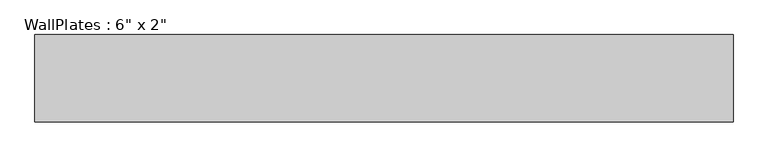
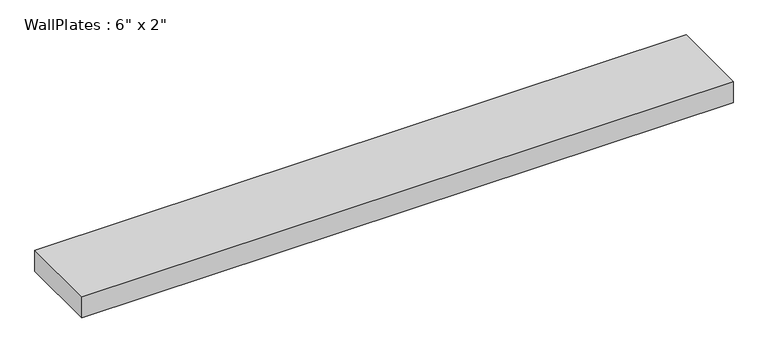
"""IFC4 building model written with IfcOpenShell, lengths in millimetres: beam geometry."""

import ifcopenshell
import ifcopenshell.guid

model = None  # the IFC model being written
_history = None  # IfcOwnerHistory: only IFC2X3 demands one
_inside = {}  # id of a spatial element -> (the spatial element, [elements in it])
_under = {}  # id of a project, library or spatial element -> (it, [spatial elements below it])
_declared = {}  # id of a project -> (the project, [libraries it declares])
_typed = {}  # id of a type object -> (the type object, [elements of that type])
_made_of = {}  # id of a material, layer set ... -> (it, [elements and type objects made of it])


def new_model(schema):
    """Start an empty IFC model of exactly this schema.

    Asked for "IFC4X3", IfcOpenShell would pick the latest addendum, in which some entities
    have other attributes; the version numbers below select the first issue.
    IFC2X3 requires an IfcOwnerHistory on every rooted entity: one is made here for all.
    """
    global model, _history
    if schema == "IFC4X3":
        model = ifcopenshell.file(schema_version=(4, 3, 0, 0))
    else:
        model = ifcopenshell.file(schema=schema)
    _inside.clear()
    _under.clear()
    _declared.clear()
    _typed.clear()
    _made_of.clear()
    _history = None
    if model.schema == "IFC2X3":
        org = make("IfcOrganization", Name="unknown")
        user = make(
            "IfcPersonAndOrganization",
            ThePerson=make("IfcPerson", FamilyName="unknown"),
            TheOrganization=org,
        )
        app = make(
            "IfcApplication",
            ApplicationDeveloper=org,
            Version="unknown",
            ApplicationFullName="unknown",
            ApplicationIdentifier="unknown",
        )
        _history = make(
            "IfcOwnerHistory",
            OwningUser=user,
            OwningApplication=app,
            ChangeAction="ADDED",
            CreationDate=0,
        )
    return model


def make(cls, **values):
    """One entity of the class cls with the attributes given. An attribute that is None is left unset."""
    return model.create_entity(
        cls, **{name: value for name, value in values.items() if value is not None}
    )


def rooted(cls, **values):
    """An entity with a GlobalId (a new one), such as an element, a storey or a relation."""
    return make(cls, GlobalId=ifcopenshell.guid.new(), OwnerHistory=_history, **values)


def si_unit(unit_type, name, prefix=None):
    """IfcSIUnit, for example si_unit("LENGTHUNIT", "METRE", prefix="MILLI")."""
    return make("IfcSIUnit", UnitType=unit_type, Prefix=prefix, Name=name)


def assignment(units):
    """IfcUnitAssignment: the units of a project."""
    return None if units is None else make("IfcUnitAssignment", Units=units)


def point(xyz):
    """IfcCartesianPoint."""
    return None if xyz is None else make("IfcCartesianPoint", Coordinates=xyz)


def direction(xyz):
    """IfcDirection."""
    return None if xyz is None else make("IfcDirection", DirectionRatios=xyz)


def frame(location, z_axis=None, x_axis=None):
    """IfcAxis2Placement3D, a coordinate frame: its origin and axes. An axis left out is left unset."""
    return make(
        "IfcAxis2Placement3D",
        Location=point(location),
        Axis=direction(z_axis),
        RefDirection=direction(x_axis),
    )


def origin():
    """The frame at (0, 0, 0) with its axes left unset."""
    return frame((0.0, 0.0, 0.0))


def place(relative_to, where):
    """IfcLocalPlacement: puts the frame where relative to a parent placement (None: the world)."""
    return make(
        "IfcLocalPlacement", PlacementRelTo=relative_to, RelativePlacement=where
    )


def context(
    kind, dimensions, precision=None, world=None, true_north=None, identifier=None
):
    """IfcGeometricRepresentationContext, for example the 3D "Model" context."""
    return make(
        "IfcGeometricRepresentationContext",
        ContextIdentifier=identifier,
        ContextType=kind,
        CoordinateSpaceDimension=dimensions,
        Precision=precision,
        WorldCoordinateSystem=world,
        TrueNorth=true_north,
    )


def project(units=None, contexts=None):
    """IfcProject with its units and contexts."""
    return rooted(
        "IfcProject",
        Name="project",
        RepresentationContexts=contexts,
        UnitsInContext=assignment(units),
    )


def spatial(cls, under=None, at=None, **own):
    """A site, building, storey or space (cls), placed at a placement, below another one or the project."""
    s = rooted(cls, ObjectPlacement=at, **own)
    if under is not None:
        _under.setdefault(under.id(), (under, []))[1].append(s)
    return s


def polyline(points):
    """IfcPolyline through the points."""
    return make("IfcPolyline", Points=[point(p) for p in points])


def outline(outer, holes=None, kind="AREA"):
    """IfcArbitraryClosedProfileDef: a profile drawn as a closed curve; with holes, ...WithVoids."""
    if holes is None:
        return make("IfcArbitraryClosedProfileDef", ProfileType=kind, OuterCurve=outer)
    return make(
        "IfcArbitraryProfileDefWithVoids",
        ProfileType=kind,
        OuterCurve=outer,
        InnerCurves=holes,
    )


def extrude(swept, where, along, depth):
    """IfcExtrudedAreaSolid: the profile swept, set in the frame where, extruded along a direction by depth."""
    return make(
        "IfcExtrudedAreaSolid",
        SweptArea=swept,
        Position=where,
        ExtrudedDirection=direction(along),
        Depth=depth,
    )


def shape(context_of_items, identifier, shape_type, items):
    """IfcShapeRepresentation: the items that make up one representation, for example the "Body"."""
    return make(
        "IfcShapeRepresentation",
        ContextOfItems=context_of_items,
        RepresentationIdentifier=identifier,
        RepresentationType=shape_type,
        Items=items,
    )


def source(mapping_origin, context_of_items, identifier, shape_type, items):
    """IfcRepresentationMap: a shape defined once, which mapped items show again and again."""
    return make(
        "IfcRepresentationMap",
        MappingOrigin=mapping_origin,
        MappedRepresentation=shape(context_of_items, identifier, shape_type, items),
    )


def transform(
    local_origin,
    x_axis=None,
    y_axis=None,
    z_axis=None,
    scale=None,
    scale2=None,
    scale3=None,
    uniform=True,
):
    """IfcCartesianTransformationOperator3D, or its non-uniform kind. x_axis, y_axis, z_axis: its Axis1, 2, 3."""
    if uniform:
        return make(
            "IfcCartesianTransformationOperator3D",
            Axis1=direction(x_axis),
            Axis2=direction(y_axis),
            LocalOrigin=point(local_origin),
            Scale=scale,
            Axis3=direction(z_axis),
        )
    return make(
        "IfcCartesianTransformationOperator3DnonUniform",
        Axis1=direction(x_axis),
        Axis2=direction(y_axis),
        LocalOrigin=point(local_origin),
        Scale=scale,
        Axis3=direction(z_axis),
        Scale2=scale2,
        Scale3=scale3,
    )


def mapped(mapping_source, mapping_target):
    """IfcMappedItem: shows the shape of a source again, moved by a transform."""
    return make(
        "IfcMappedItem", MappingSource=mapping_source, MappingTarget=mapping_target
    )


def made_of(thing, what):
    """Note that an element or type object is made of a material, layer set ...; save() writes the relation."""
    if what is not None:
        _made_of.setdefault(what.id(), (what, []))[1].append(thing)
    return thing


def element(
    cls,
    number,
    at=None,
    inside=None,
    cuts=None,
    type_object=None,
    material=None,
    context=None,
    identifier="Body",
    shape_type=None,
    held_by="IfcProductDefinitionShape",
    body=None,
    shapes=None,
    **own,
):
    """One element of the class cls, such as IfcWall. Its Tag is "e" and its number.

    at: its placement. inside: the storey or other place that contains it. cuts: it is an
    opening in that element (IfcRelVoidsElement). A single representation is given by context,
    identifier, shape_type and body (its items); several are given by shapes. held_by: the class
    of the entity that holds the representations. save() writes the other relations.
    """
    e = rooted(cls, Tag="e%d" % number, ObjectPlacement=at, **own)
    if body is not None:
        shapes = [shape(context, identifier, shape_type, body)]
    if shapes is not None:
        e.Representation = make(held_by, Representations=shapes)
    if inside is not None:
        _inside.setdefault(inside.id(), (inside, []))[1].append(e)
    if cuts is not None:
        rooted(
            "IfcRelVoidsElement", RelatingBuildingElement=cuts, RelatedOpeningElement=e
        )
    if type_object is not None:
        _typed.setdefault(type_object.id(), (type_object, []))[1].append(e)
    return made_of(e, material)


def aggregate(whole, parts):
    """IfcRelAggregates: a whole, such as a stair, and the parts it consists of."""
    return rooted("IfcRelAggregates", RelatingObject=whole, RelatedObjects=parts)


def save(model, path):
    """Write the relations noted so far, then the file.

    IfcRelAggregates (storeys below a building ...), IfcRelContainedInSpatialStructure (elements
    in a storey), IfcRelDefinesByType, IfcRelAssociatesMaterial and IfcRelDeclares: one each for
    every whole, place, type object, material and project.
    """
    for whole, parts in _under.values():
        aggregate(whole, parts)
    for where, things in _inside.values():
        rooted(
            "IfcRelContainedInSpatialStructure",
            RelatedElements=things,
            RelatingStructure=where,
        )
    for kind, things in _typed.values():
        rooted("IfcRelDefinesByType", RelatedObjects=things, RelatingType=kind)
    for what, things in _made_of.values():
        rooted("IfcRelAssociatesMaterial", RelatedObjects=things, RelatingMaterial=what)
    for by, libraries in _declared.values():
        rooted("IfcRelDeclares", RelatingContext=by, RelatedDefinitions=libraries)
    model.write(path)


def beam_ff6ccf8b(model_context):
    return source(origin(), model_context, "Body", "SweptSolid", [
        extrude(outline(polyline([(-558.79, -69.85), (-558.79, 69.85), (558.79, 69.85), (558.79, -69.85), (-558.79, -69.85)])), frame((0.0, 0.0, -19.05), z_axis=(0.0, 0.0, 1.0), x_axis=(1.0, 0.0, 0.0)), (0.0, 0.0, 1.0), 38.1),
    ])


if __name__ == "__main__":
    model = new_model("IFC4")
    model_context = context("Model", 3, world=origin())
    ifc_project = project(units=[si_unit("LENGTHUNIT", "METRE", prefix="MILLI")], contexts=[model_context])
    site = spatial("IfcSite", under=ifc_project)
    building = spatial("IfcBuilding", under=site)
    placement = place(None, origin())
    beam_shape = beam_ff6ccf8b(model_context)
    element("IfcBeam", 1, ObjectType="WallPlates : 6\" x 2\"", at=placement, inside=building, context=model_context, shape_type="MappedRepresentation", body=[
        mapped(beam_shape, transform((0.0, 0.0, 0.0), x_axis=(1.0, 0.0, 0.0), y_axis=(0.0, 1.0, 0.0), z_axis=(0.0, 0.0, 1.0))),
    ])
    save(model, "model.ifc")
